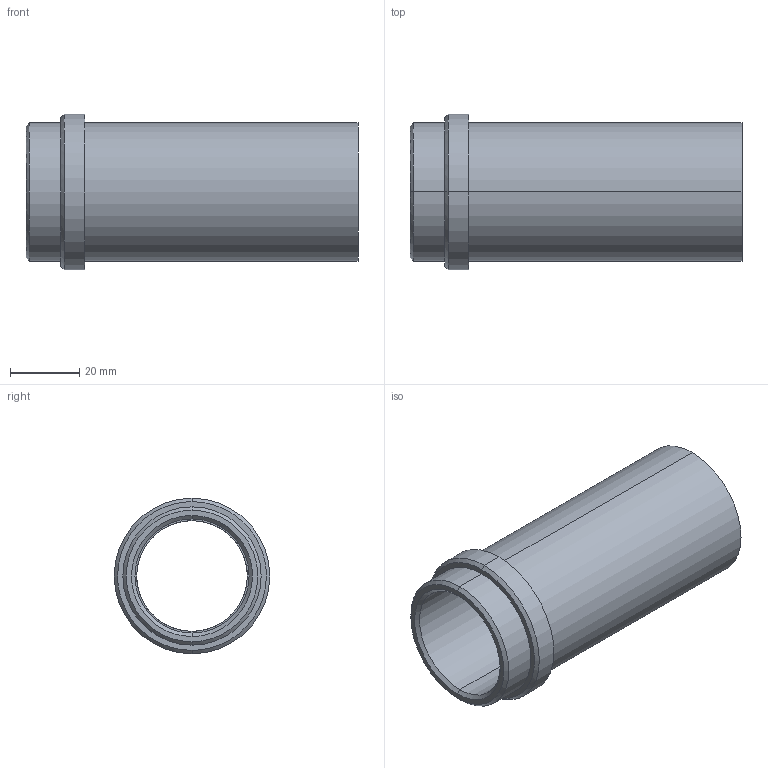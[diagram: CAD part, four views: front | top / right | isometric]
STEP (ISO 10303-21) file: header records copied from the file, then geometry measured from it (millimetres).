
FILE_DESCRIPTION(('CATIA V5 STEP Exchange'),'2;1');
FILE_NAME('C:\Users\Utente\Desktop\IO LAVORO\3D X SITO CF\X SITO\PLASTICA\358\358-32x96.stp','2021-04-09T13:14:06+00:00',('none'),('none'),'CATIA Version 5 Release 20 GA (IN-10)','CATIA V5 STEP AP203','none');
FILE_SCHEMA(('CONFIG_CONTROL_DESIGN'));
Length unit declared in the file: millimetre
Products named in the file (1): 358-32X96
Bounding box: 96 x 45 x 45 mm (x, y, z)
Volume: 43859.3 mm3; surface area: 23194.6 mm2
Topology: 1 solids, 1 shells, 23 faces, 74 edges, 56 vertices
Faces by surface type: cylinder 10, cone 6, plane 5, torus 2
Entity records: 1066 total; most frequent: CARTESIAN_POINT 378, ORIENTED_EDGE 148, DIRECTION 104, EDGE_CURVE 74, AXIS2_PLACEMENT_3D 66, VERTEX_POINT 56, CIRCLE 42, EDGE_LOOP 28
